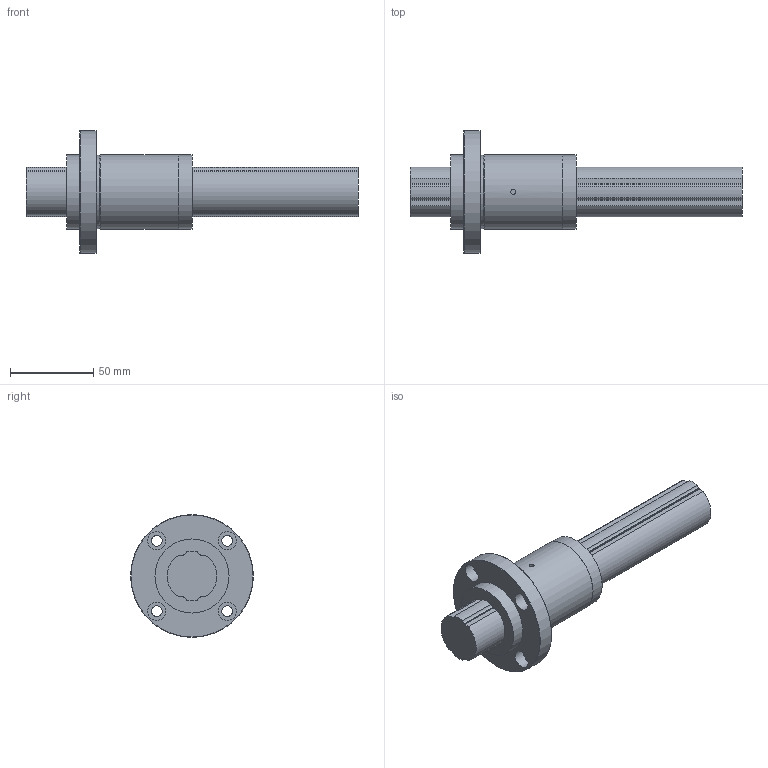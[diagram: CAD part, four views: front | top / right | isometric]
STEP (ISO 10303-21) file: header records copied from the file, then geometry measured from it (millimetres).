
FILE_DESCRIPTION(/* description */ ('STEP AP214'),/* implementation_level */ '2;1');
FILE_NAME(/* name */ 'LF30X+200L(00)',/* time_stamp */ '2024-09-05T14:48:13+02:00',/* author */ ('License CC BY-ND 4.0'),/* organization */ ('CADENAS'),/* preprocessor_version */ 'ST-DEVELOPER v19.3',/* originating_system */ 'PARTsolutions',/* authorisation */ ' ');
FILE_SCHEMA (('AUTOMOTIVE_DESIGN {1 0 10303 214 3 1 1}'));
Length unit declared in the file: millimetre
Products named in the file (3): LF30X+200L(00); 1LT30X 200Shaft; 1LF30X Cylindar
Assembly tree (2 placements, depth 2):
  LF30X+200L(00)
    1LT30X 200Shaft
    1LF30X Cylindar
Bounding box: 200 x 74 x 74 mm (x, y, z)
Volume: 229421.5 mm3; surface area: 47910.9 mm2
Topology: 2 solids, 2 shells, 77 faces, 196 edges, 129 vertices
Faces by surface type: cylinder 47, plane 27, cone 3
Full cylindrical faces by diameter (mm): 3 x2, 6.6 x4, 11 x4, 44.2 x1, 44.6 x2, 45 x1, 74 x1
Entity records: 2393 total; most frequent: DIRECTION 424, CARTESIAN_POINT 424, ORIENTED_EDGE 352, EDGE_CURVE 176, AXIS2_PLACEMENT_3D 172, VERTEX_POINT 128, EDGE_LOOP 116, FACE_BOUND 116
